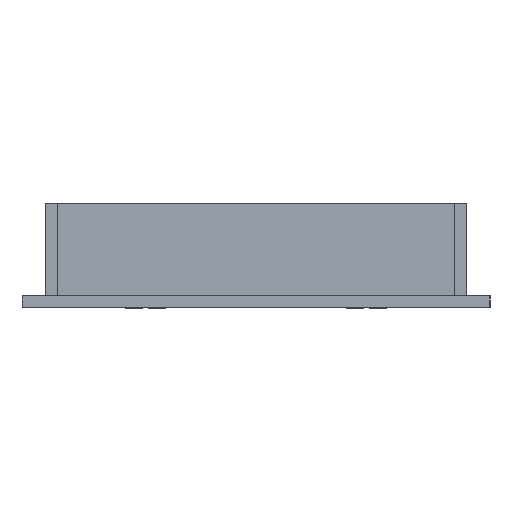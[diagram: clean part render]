
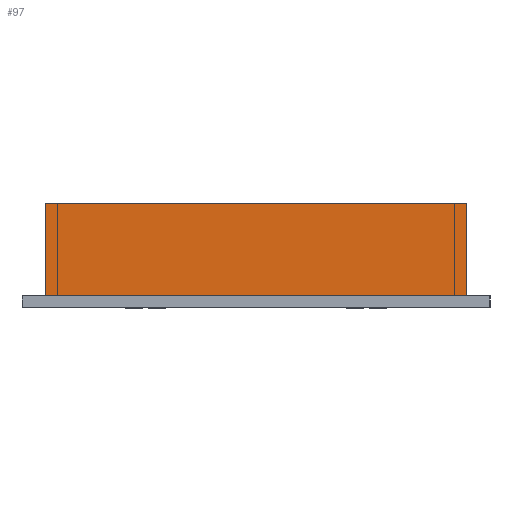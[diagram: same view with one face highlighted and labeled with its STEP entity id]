
A CAD part, left-side view. The second image highlights one B-rep face of the part: STEP entity #97.
In plain terms, the highlighted planar face has unit normal (-1, 0, 0).
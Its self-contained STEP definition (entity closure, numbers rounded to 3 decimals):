
#97=ADVANCED_FACE('',(#266),#2246,.T.);
#266=FACE_OUTER_BOUND('',#442,.T.);
#442=EDGE_LOOP('',(#692,#693,#694,#695));
#692=ORIENTED_EDGE('',*,*,#1494,.T.);
#693=ORIENTED_EDGE('',*,*,#1478,.T.);
#694=ORIENTED_EDGE('',*,*,#1479,.F.);
#695=ORIENTED_EDGE('',*,*,#1480,.F.);
#1478=EDGE_CURVE('',#1890,#1881,#2318,.T.);
#1479=EDGE_CURVE('',#1882,#1881,#2319,.T.);
#1480=EDGE_CURVE('',#1889,#1882,#2320,.T.);
#1494=EDGE_CURVE('',#1889,#1890,#2334,.T.);
#1881=VERTEX_POINT('',#4135);
#1882=VERTEX_POINT('',#4136);
#1889=VERTEX_POINT('',#4143);
#1890=VERTEX_POINT('',#4144);
#2246=PLANE('',#2826);
#2318=B_SPLINE_CURVE_WITH_KNOTS('',1,(#4209,#4210),.UNSPECIFIED.,.F.,.F.,
(2,2),(0.,25.),.UNSPECIFIED.);
#2319=B_SPLINE_CURVE_WITH_KNOTS('',1,(#4211,#4212),.UNSPECIFIED.,.F.,.F.,
(2,2),(-3248.564,-3134.564),.UNSPECIFIED.);
#2320=B_SPLINE_CURVE_WITH_KNOTS('',1,(#4213,#4214),.UNSPECIFIED.,.F.,.F.,
(2,2),(0.,25.),.UNSPECIFIED.);
#2334=B_SPLINE_CURVE_WITH_KNOTS('',1,(#4241,#4242),.UNSPECIFIED.,.F.,.F.,
(2,2),(-3248.564,-3134.564),.UNSPECIFIED.);
#2826=AXIS2_PLACEMENT_3D('',#3311,#2962,$);
#2962=DIRECTION('',(-1.,0.,0.));
#3311=CARTESIAN_POINT('',(6.5,-6.5,3.));
#4135=CARTESIAN_POINT('',(6.5,-120.5,28.));
#4136=CARTESIAN_POINT('',(6.5,-6.5,28.));
#4143=CARTESIAN_POINT('',(6.5,-6.5,3.));
#4144=CARTESIAN_POINT('',(6.5,-120.5,3.));
#4209=CARTESIAN_POINT('',(6.5,-120.5,3.));
#4210=CARTESIAN_POINT('',(6.5,-120.5,28.));
#4211=CARTESIAN_POINT('',(6.5,-6.5,28.));
#4212=CARTESIAN_POINT('',(6.5,-120.5,28.));
#4213=CARTESIAN_POINT('',(6.5,-6.5,3.));
#4214=CARTESIAN_POINT('',(6.5,-6.5,28.));
#4241=CARTESIAN_POINT('',(6.5,-6.5,3.));
#4242=CARTESIAN_POINT('',(6.5,-120.5,3.));
